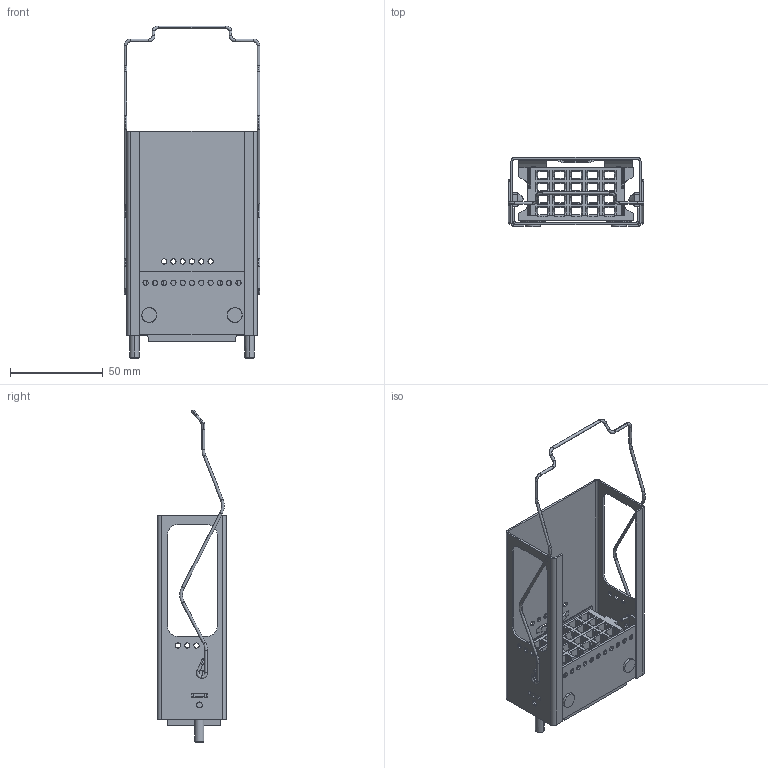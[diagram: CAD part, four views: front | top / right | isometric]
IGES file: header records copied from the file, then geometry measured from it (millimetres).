
Global section: file name: No Iges File Name specified; native system: AutoDesk Inventor R10; preprocessor: AutoDesk Inventor Iges Exporter R10; author: No Author specified; organization: No Organization specified; date: 20080129.133407; units: millimetre
Bounding box: 73 x 37.15 x 178.7 mm (x, y, z)
Volume: 48690.9 mm3; surface area: 62641.8 mm2
Topology: 7 solids, 7 shells, 1493 faces, 4216 edges, 2754 vertices
Faces by surface type: plane 897, cylinder 404, revolution 126, torus 42, bspline 20, cone 4
